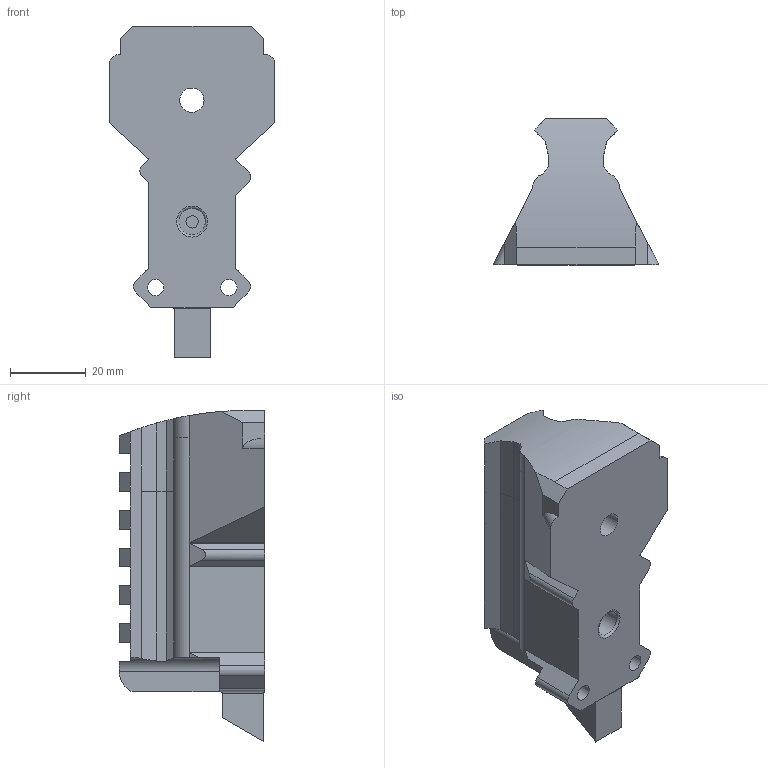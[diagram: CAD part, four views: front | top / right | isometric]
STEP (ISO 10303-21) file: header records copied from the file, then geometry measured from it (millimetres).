
FILE_DESCRIPTION(/* description */ (''),/* implementation_level */ '2;1');
FILE_NAME(/* name */ 'C:/Users/Jacob/Desktop/Daikon_FF2 Sliding Stock/TnG modular endcap.step',/* time_stamp */ '2021-10-26T22:36:16-04:00',/* author */ (''),/* organization */ (''),/* preprocessor_version */ 'ST-DEVELOPER v18.1',/* originating_system */ 'Autodesk Translation Framework v10.10.0.1391',/* authorisation */ '');
FILE_SCHEMA (('AUTOMOTIVE_DESIGN { 1 0 10303 214 3 1 1 }'));
Length unit declared in the file: millimetre
Products named in the file (1): modular endcap2
Bounding box: 43.85 x 38.51 x 87.49 mm (x, y, z)
Volume: 60014.8 mm3; surface area: 13924.3 mm2
Topology: 1 solids, 1 shells, 156 faces, 413 edges, 261 vertices
Faces by surface type: plane 124, cylinder 29, bspline 2, torus 1
Full cylindrical faces by diameter (mm): 3.27 x1, 4.3 x2, 6.4 x1, 7 x1, 10.5 x1
Entity records: 5096 total; most frequent: CARTESIAN_POINT 1161, ORIENTED_EDGE 826, DIRECTION 787, EDGE_CURVE 413, LINE 315, VECTOR 315, VERTEX_POINT 261, AXIS2_PLACEMENT_3D 236
